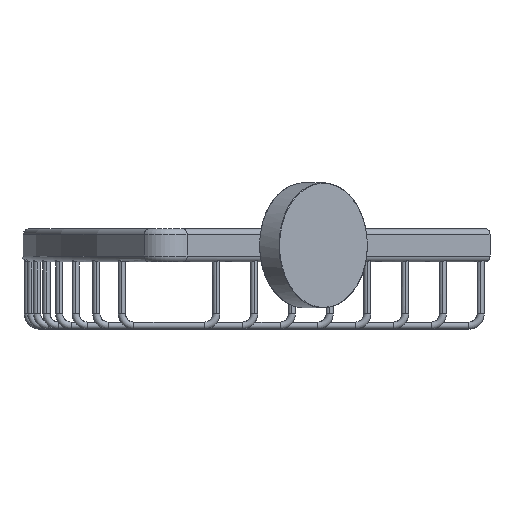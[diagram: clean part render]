
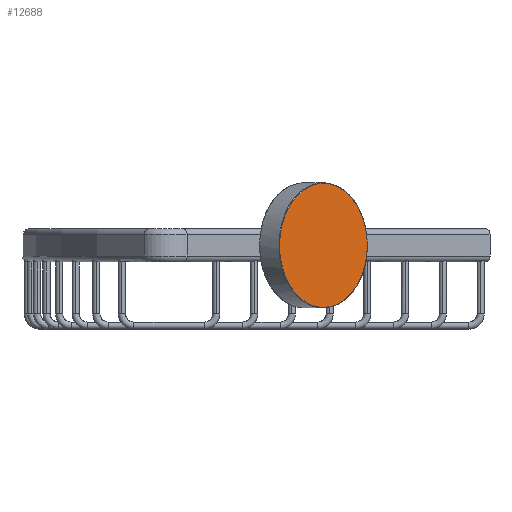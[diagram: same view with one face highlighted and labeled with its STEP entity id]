
A CAD part, front view. The second image highlights one B-rep face of the part: STEP entity #12688.
In plain terms, the highlighted planar face has unit normal (0.707, -0.707, 0).
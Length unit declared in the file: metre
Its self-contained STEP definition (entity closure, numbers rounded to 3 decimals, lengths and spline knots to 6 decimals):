
#230=EDGE_CURVE('',#231,#233,#235,.F.);
#231=VERTEX_POINT('',#232);
#232=CARTESIAN_POINT('',(-0.056003,-0.09348,0.0));
#233=VERTEX_POINT('',#234);
#234=CARTESIAN_POINT('',(-0.0746,-0.112076,0.0263));
#235=CIRCLE('',#236,0.0263);
#236=AXIS2_PLACEMENT_3D('',#237,#238,#239);
#237=CARTESIAN_POINT('',(-0.0746,-0.112076,-0.0));
#238=DIRECTION('',(-0.707,0.707,0.0));
#239=DIRECTION('',(-0.707,-0.707,0.0));
#12688=ADVANCED_FACE('',(#12694),#12689,.F.);
#12689=PLANE('',#12690);
#12690=AXIS2_PLACEMENT_3D('',#12691,#12692,#12693);
#12691=CARTESIAN_POINT('',(-0.0746,-0.112076,0.0265)
  );
#12692=DIRECTION('',(-0.707,0.707,0.0));
#12693=DIRECTION('',(0.0,0.0,1.0));
#12694=FACE_OUTER_BOUND('',#12695,.T.);
#12695=EDGE_LOOP('',(#12696,#12707));
#12696=ORIENTED_EDGE('',*,*,#12698,.T.);
#12697=CARTESIAN_POINT('',(-0.056003,-0.09348,0.0));
#12698=EDGE_CURVE('',#233,#231,#12699,.F.);
#12699=(B_SPLINE_CURVE(3,(#12697,#12700,#12701,#12702,#12703,#12704,#12705),
  .UNSPECIFIED.,.F.,.U.)B_SPLINE_CURVE_WITH_KNOTS((4,3,4),(0.0,0.5,1.0),
  .UNSPECIFIED.)BOUNDED_CURVE()CURVE()GEOMETRIC_REPRESENTATION_ITEM()RATIONAL_B_SPLINE_CURVE(
  (1.0,0.588,0.588,1.0,0.588,
  0.588,1.0))REPRESENTATION_ITEM(''));
#12700=CARTESIAN_POINT('',(-0.056003,-0.09348,
  -0.027527));
#12701=CARTESIAN_POINT('',(-0.073986,-0.111463,
  -0.038062));
#12702=CARTESIAN_POINT('',(-0.08775,-0.125226,
  -0.018597));
#12703=CARTESIAN_POINT('',(-0.101513,-0.13899,
  0.000868));
#12704=CARTESIAN_POINT('',(-0.094065,-0.131541,0.0263)
  );
#12705=CARTESIAN_POINT('',(-0.0746,-0.112076,0.0263)
  );
#12707=ORIENTED_EDGE('',*,*,#230,.T.);
